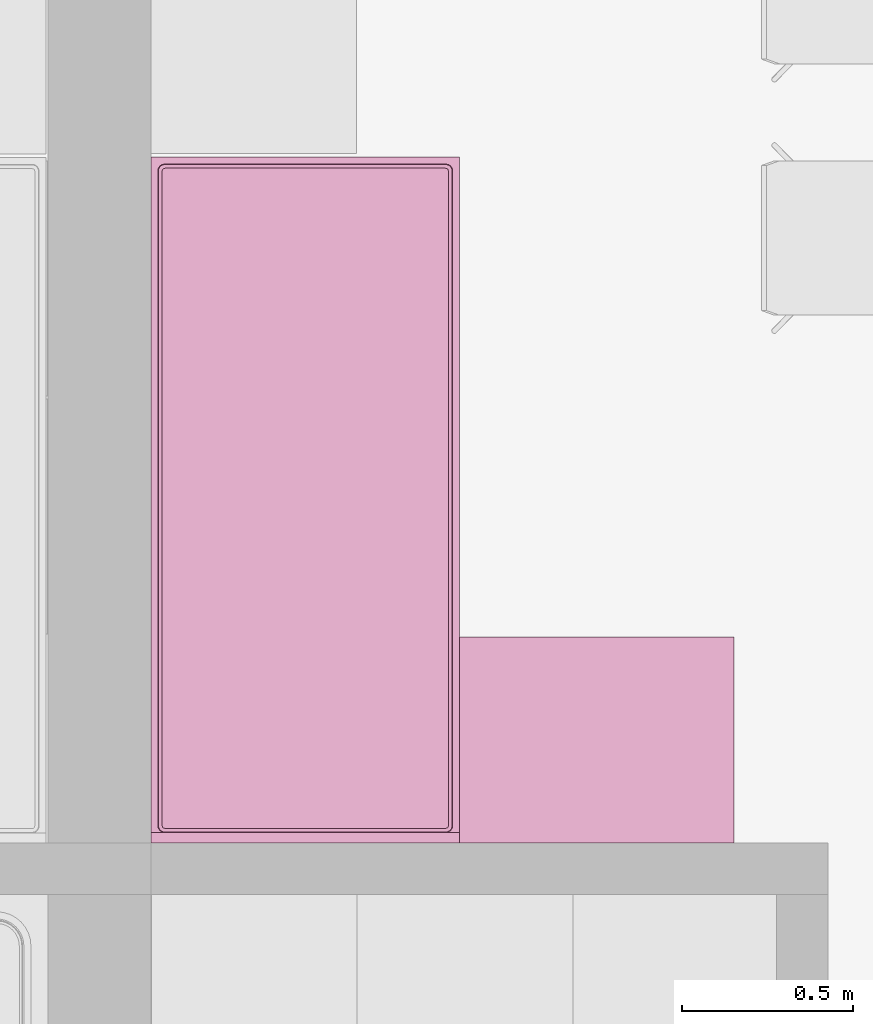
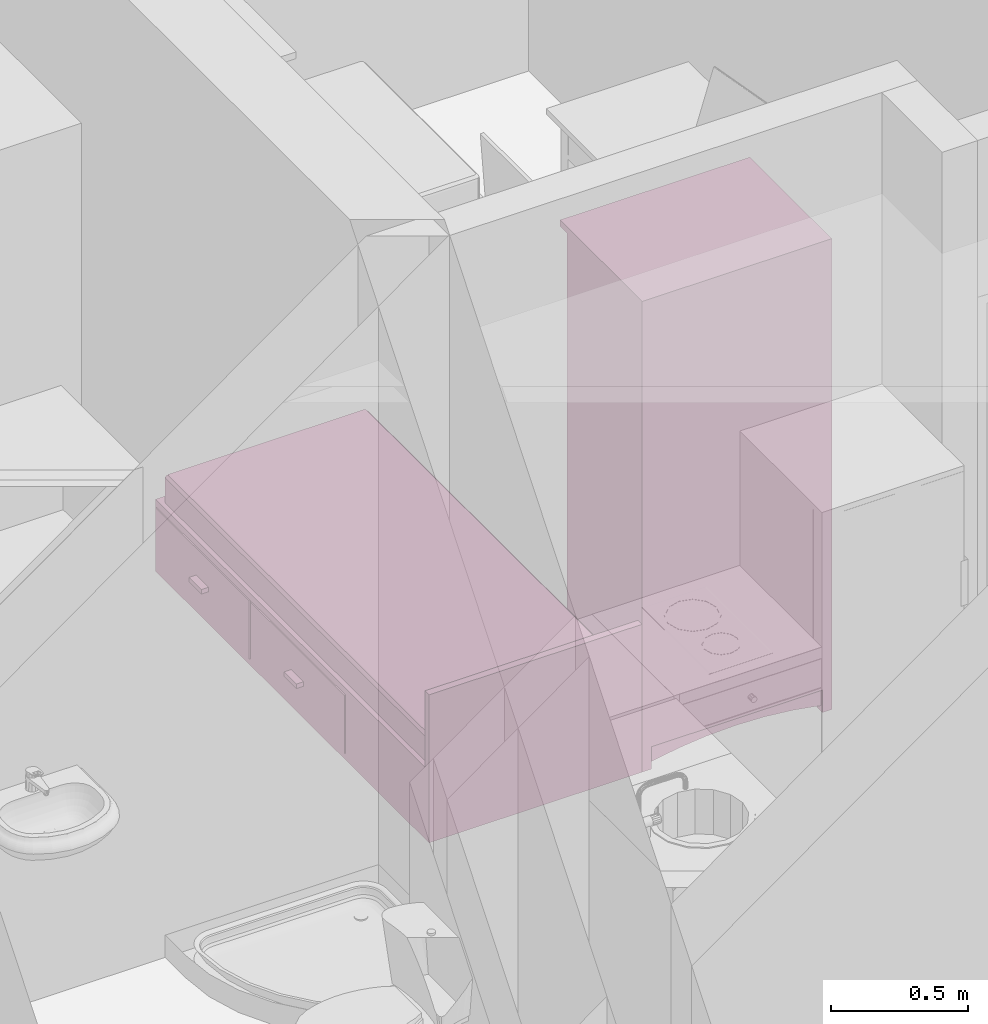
# One storey, part 90 of 165: 2 furnishings.
"""IFC2X3 building model written with IfcOpenShell, lengths in millimetres."""

from ifc_helpers import new_model, entity, si_unit, converted_unit, money_unit, direction, frame, origin_with_axes, place, context, subcontext, project, spatial, faceted_brep, source, transform, mapped, material, material_list, type_object, element, save


model = new_model("IFC2X3")

# Units and contexts
model_context = context("Model", 3, precision=1e-05, world=origin_with_axes(), true_north=direction((0.0, 1.0)))
body_context = subcontext(model_context, "Body", "Model", "MODEL_VIEW")
ifc_project = project(units=[si_unit("LENGTHUNIT", "METRE", prefix="MILLI"), si_unit("AREAUNIT", "SQUARE_METRE"), si_unit("VOLUMEUNIT", "CUBIC_METRE"), converted_unit("PLANEANGLEUNIT", "DEGREE", entity("IfcPlaneAngleMeasure", 0.0174532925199), si_unit("PLANEANGLEUNIT", "RADIAN"), dimensions=[0, 0, 0, 0, 0, 0, 0]), si_unit("SOLIDANGLEUNIT", "STERADIAN"), money_unit("USD"), converted_unit("TIMEUNIT", "Year", entity("IfcTimeMeasure", 31556926.0), si_unit("TIMEUNIT", "SECOND"), dimensions=[0, 0, 0, 0, 0, 0, 0]), si_unit("MASSUNIT", "GRAM"), si_unit("THERMODYNAMICTEMPERATUREUNIT", "DEGREE_CELSIUS"), si_unit("LUMINOUSINTENSITYUNIT", "LUMEN")], contexts=[model_context])

# Site, building, storey
site_placement = place(None, origin_with_axes())
site = spatial("IfcSite", under=ifc_project, at=site_placement, Name="Site", CompositionType="ELEMENT")
building_placement = place(site_placement, origin_with_axes())
building = spatial("IfcBuilding", under=site, at=building_placement, Name="Building", CompositionType="ELEMENT")
storey_placement = place(building_placement, frame((0.0, 0.0, 6300.0), z_axis=(0.0, 0.0, 1.0), x_axis=(1.0, 0.0, 0.0)))
storey = spatial("IfcBuildingStorey", under=building, at=storey_placement, Name="4KORRUS", CompositionType="ELEMENT", Elevation=6300.0)

# Furnishings
ifc_material = material(Name="Background")
ifc_material_list = material_list([ifc_material])
furnishing_element_type_1 = type_object("IfcFurnishingElementType", Name="Bed 19")
shared_shape_1 = source(origin_with_axes(), body_context, "Body", "Brep", [
    faceted_brep([(900.0, 1970.0, 0.0), (0.0, 1970.0, 0.0), (0.0, 2000.0, 0.0), (900.0, 2000.0, 0.0), (900.0, 1970.0, 660.0), (0.0, 1970.0, 660.0), (0.0, 2000.0, 660.0), (900.0, 2000.0, 660.0)], [[[0, 1, 2, 3]], [[1, 0, 4, 5]], [[2, 1, 5, 6]], [[3, 2, 6, 7]], [[0, 3, 7, 4]], [[5, 4, 7, 6]]]),
    faceted_brep([(900.0, 0.0, 0.0), (0.0, 0.0, 0.0), (0.0, 1970.0, 0.0), (900.0, 1970.0, 0.0), (900.0, 0.0, 320.0), (0.0, 0.0, 320.0), (0.0, 1970.0, 320.0), (900.0, 1970.0, 320.0)], [[[0, 1, 2, 3]], [[1, 0, 4, 5]], [[2, 1, 5, 6]], [[3, 2, 6, 7]], [[0, 3, 7, 4]], [[5, 4, 7, 6]]]),
    faceted_brep([(905.0, 10.0, 30.0), (900.0, 10.0, 30.0), (900.0, 695.0, 30.0), (905.0, 695.0, 30.0), (905.0, 10.0, 290.0), (900.0, 10.0, 290.0), (900.0, 695.0, 290.0), (905.0, 695.0, 290.0)], [[[0, 1, 2, 3]], [[1, 0, 4, 5]], [[2, 1, 5, 6]], [[3, 2, 6, 7]], [[0, 3, 7, 4]], [[5, 4, 7, 6]]]),
    faceted_brep([(935.0, 307.5, 150.0), (905.0, 307.5, 150.0), (905.0, 397.5, 150.0), (935.0, 397.5, 150.0), (935.0, 307.5, 170.0), (905.0, 307.5, 170.0), (905.0, 397.5, 170.0), (935.0, 397.5, 170.0)], [[[0, 1, 2, 3]], [[1, 0, 4, 5]], [[2, 1, 5, 6]], [[3, 2, 6, 7]], [[0, 3, 7, 4]], [[5, 4, 7, 6]]]),
    faceted_brep([(905.0, 705.0, 30.0), (900.0, 705.0, 30.0), (900.0, 1390.0, 30.0), (905.0, 1390.0, 30.0), (905.0, 705.0, 290.0), (900.0, 705.0, 290.0), (900.0, 1390.0, 290.0), (905.0, 1390.0, 290.0)], [[[0, 1, 2, 3]], [[1, 0, 4, 5]], [[2, 1, 5, 6]], [[3, 2, 6, 7]], [[0, 3, 7, 4]], [[5, 4, 7, 6]]]),
    faceted_brep([(935.0, 1002.5, 150.0), (905.0, 1002.5, 150.0), (905.0, 1092.5, 150.0), (935.0, 1092.5, 150.0), (935.0, 1002.5, 170.0), (905.0, 1002.5, 170.0), (905.0, 1092.5, 170.0), (935.0, 1092.5, 170.0)], [[[0, 1, 2, 3]], [[1, 0, 4, 5]], [[2, 1, 5, 6]], [[3, 2, 6, 7]], [[0, 3, 7, 4]], [[5, 4, 7, 6]]]),
    faceted_brep([(20.0, 40.0, 350.0), (20.0, 1950.0, 350.0), (21.522, 1957.654, 350.0), (25.858, 1964.142, 350.0), (32.346, 1968.478, 350.0), (40.0, 1970.0, 350.0), (860.0, 1970.0, 350.0), (867.654, 1968.478, 350.0), (874.142, 1964.142, 350.0), (878.478, 1957.654, 350.0), (880.0, 1950.0, 350.0), (880.0, 40.0, 350.0), (878.478, 32.346, 350.0), (874.142, 25.858, 350.0), (867.654, 21.522, 350.0), (860.0, 20.0, 350.0), (40.0, 20.0, 350.0), (32.346, 21.522, 350.0), (25.858, 25.858, 350.0), (21.522, 32.346, 350.0), (20.0, 40.0, 420.0), (20.0, 1950.0, 420.0), (21.522, 1957.654, 420.0), (25.858, 1964.142, 420.0), (32.346, 1968.478, 420.0), (40.0, 1970.0, 420.0), (860.0, 1970.0, 420.0), (867.654, 1968.478, 420.0), (874.142, 1964.142, 420.0), (878.478, 1957.654, 420.0), (880.0, 1950.0, 420.0), (880.0, 40.0, 420.0), (878.478, 32.346, 420.0), (874.142, 25.858, 420.0), (867.654, 21.522, 420.0), (860.0, 20.0, 420.0), (40.0, 20.0, 420.0), (32.346, 21.522, 420.0), (25.858, 25.858, 420.0), (21.522, 32.346, 420.0), (21.522, 40.15, 427.654), (21.522, 1949.85, 427.654), (22.956, 1957.06, 427.654), (26.955, 1963.045, 427.654), (32.94, 1967.044, 427.654), (40.15, 1968.478, 427.654), (859.85, 1968.478, 427.654), (867.06, 1967.044, 427.654), (873.045, 1963.045, 427.654), (877.044, 1957.06, 427.654), (878.478, 1949.85, 427.654), (878.478, 40.15, 427.654), (877.044, 32.94, 427.654), (873.045, 26.955, 427.654), (867.06, 22.956, 427.654), (859.85, 21.522, 427.654), (40.15, 21.522, 427.654), (32.94, 22.956, 427.654), (26.955, 26.955, 427.654), (22.956, 32.94, 427.654), (32.346, 41.216, 438.478), (32.346, 1948.784, 438.478), (33.152, 1952.836, 438.478), (34.759, 1955.241, 438.478), (37.164, 1956.848, 438.478), (41.216, 1957.654, 438.478), (858.784, 1957.654, 438.478), (862.836, 1956.848, 438.478), (865.241, 1955.241, 438.478), (866.848, 1952.836, 438.478), (867.654, 1948.784, 438.478), (867.654, 41.216, 438.478), (866.848, 37.164, 438.478), (865.241, 34.759, 438.478), (862.836, 33.152, 438.478), (858.784, 32.346, 438.478), (41.216, 32.346, 438.478), (37.164, 33.152, 438.478), (34.759, 34.759, 438.478), (33.152, 37.164, 438.478), (40.0, 41.97, 440.0), (40.0, 1948.03, 440.0), (40.327, 1949.673, 440.0), (40.0, 1950.0, 439.924), (41.97, 1950.0, 440.0), (858.03, 1950.0, 440.0), (859.673, 1949.673, 440.0), (860.0, 1950.0, 439.924), (860.0, 1948.03, 440.0), (860.0, 41.97, 440.0), (859.673, 40.327, 440.0), (860.0, 40.0, 439.924), (858.03, 40.0, 440.0), (41.97, 40.0, 440.0), (40.327, 40.327, 440.0), (40.0, 40.0, 439.924)], [[[0, 1, 2, 3, 4, 5, 6, 7, 8, 9, 10, 11, 12, 13, 14, 15, 16, 17, 18, 19]], [[1, 0, 20, 21]], [[2, 1, 21, 22]], [[3, 2, 22, 23]], [[4, 3, 23, 24]], [[5, 4, 24, 25]], [[6, 5, 25, 26]], [[7, 6, 26, 27]], [[8, 7, 27, 28]], [[9, 8, 28, 29]], [[10, 9, 29, 30]], [[11, 10, 30, 31]], [[12, 11, 31, 32]], [[13, 12, 32, 33]], [[14, 13, 33, 34]], [[15, 14, 34, 35]], [[16, 15, 35, 36]], [[17, 16, 36, 37]], [[18, 17, 37, 38]], [[19, 18, 38, 39]], [[0, 19, 39, 20]], [[21, 20, 40, 41]], [[22, 21, 41, 42]], [[23, 22, 42, 43]], [[24, 23, 43, 44]], [[25, 24, 44, 45]], [[26, 25, 45, 46]], [[27, 26, 46, 47]], [[28, 27, 47, 48]], [[29, 28, 48, 49]], [[30, 29, 49, 50]], [[31, 30, 50, 51]], [[32, 31, 51, 52]], [[33, 32, 52, 53]], [[34, 33, 53, 54]], [[35, 34, 54, 55]], [[36, 35, 55, 56]], [[37, 36, 56, 57]], [[38, 37, 57, 58]], [[39, 38, 58, 59]], [[20, 39, 59, 40]], [[41, 40, 60, 61]], [[42, 41, 61, 62]], [[43, 42, 62, 63]], [[44, 43, 63, 64]], [[45, 44, 64, 65]], [[46, 45, 65, 66]], [[47, 46, 66, 67]], [[48, 47, 67, 68]], [[49, 48, 68, 69]], [[50, 49, 69, 70]], [[51, 50, 70, 71]], [[52, 51, 71, 72]], [[53, 52, 72, 73]], [[54, 53, 73, 74]], [[55, 54, 74, 75]], [[56, 55, 75, 76]], [[57, 56, 76, 77]], [[58, 57, 77, 78]], [[59, 58, 78, 79]], [[40, 59, 79, 60]], [[61, 60, 80, 81]], [[62, 61, 81, 82, 83]], [[63, 62, 83]], [[64, 63, 83]], [[65, 64, 83, 82, 84]], [[66, 65, 84, 85]], [[67, 66, 85, 86, 87]], [[68, 67, 87]], [[69, 68, 87]], [[70, 69, 87, 86, 88]], [[71, 70, 88, 89]], [[72, 71, 89, 90, 91]], [[73, 72, 91]], [[74, 73, 91]], [[75, 74, 91, 90, 92]], [[76, 75, 92, 93]], [[77, 76, 93, 94, 95]], [[78, 77, 95]], [[79, 78, 95]], [[60, 79, 95, 94, 80]], [[81, 80, 94, 93, 92, 90, 89, 88, 86, 85, 84, 82]]]),
    faceted_brep([(20.0, 40.0, 350.0), (21.522, 32.346, 350.0), (25.858, 25.858, 350.0), (32.346, 21.522, 350.0), (40.0, 20.0, 350.0), (860.0, 20.0, 350.0), (867.654, 21.522, 350.0), (874.142, 25.858, 350.0), (878.478, 32.346, 350.0), (880.0, 40.0, 350.0), (880.0, 1950.0, 350.0), (878.478, 1957.654, 350.0), (874.142, 1964.142, 350.0), (867.654, 1968.478, 350.0), (860.0, 1970.0, 350.0), (40.0, 1970.0, 350.0), (32.346, 1968.478, 350.0), (25.858, 1964.142, 350.0), (21.522, 1957.654, 350.0), (20.0, 1950.0, 350.0), (20.0, 40.0, 320.0), (21.522, 32.346, 320.0), (25.858, 25.858, 320.0), (32.346, 21.522, 320.0), (40.0, 20.0, 320.0), (860.0, 20.0, 320.0), (867.654, 21.522, 320.0), (874.142, 25.858, 320.0), (878.478, 32.346, 320.0), (880.0, 40.0, 320.0), (880.0, 1950.0, 320.0), (878.478, 1957.654, 320.0), (874.142, 1964.142, 320.0), (867.654, 1968.478, 320.0), (860.0, 1970.0, 320.0), (40.0, 1970.0, 320.0), (32.346, 1968.478, 320.0), (25.858, 1964.142, 320.0), (21.522, 1957.654, 320.0), (20.0, 1950.0, 320.0)], [[[0, 1, 2, 3, 4, 5, 6, 7, 8, 9, 10, 11, 12, 13, 14, 15, 16, 17, 18, 19]], [[0, 20, 21, 1]], [[1, 21, 22, 2]], [[2, 22, 23, 3]], [[3, 23, 24, 4]], [[4, 24, 25, 5]], [[5, 25, 26, 6]], [[6, 26, 27, 7]], [[7, 27, 28, 8]], [[8, 28, 29, 9]], [[9, 29, 30, 10]], [[10, 30, 31, 11]], [[11, 31, 32, 12]], [[12, 32, 33, 13]], [[13, 33, 34, 14]], [[14, 34, 35, 15]], [[15, 35, 36, 16]], [[16, 36, 37, 17]], [[17, 37, 38, 18]], [[18, 38, 39, 19]], [[19, 39, 20, 0]], [[20, 39, 38, 37, 36, 35, 34, 33, 32, 31, 30, 29, 28, 27, 26, 25, 24, 23, 22, 21]]]),
])
furnishing_1_placement = place(storey_placement, frame((-35090.2967033, -7216.37850445, 0.0), z_axis=(0.0, 0.0, 1.0), x_axis=(-1.0, 0.0, 0.0)))
element("IfcFurnishingElement", 1, at=furnishing_1_placement, inside=storey, type_object=furnishing_element_type_1, material=ifc_material_list, Name="FU - 013", context=body_context, shape_type="MappedRepresentation", body=[
    mapped(shared_shape_1, transform((0.0, 0.0, 0.0))),
])
furnishing_element_type_2 = type_object("IfcFurnishingElementType", Name="Cupboard 19")
shared_shape_2 = source(origin_with_axes(), body_context, "Body", "Brep", [
    faceted_brep([(780.0, 600.0, 120.0), (780.0, 600.0, 2050.0), (780.0, 580.0, 2050.0), (780.0, 580.0, 120.0), (20.0, 600.0, 120.0), (20.0, 600.0, 2050.0), (20.0, 580.0, 2050.0), (20.0, 580.0, 120.0)], [[[0, 1, 2, 3]], [[4, 5, 1, 0]], [[1, 5, 6, 2]], [[3, 2, 6, 7]], [[0, 3, 7, 4]], [[7, 6, 5, 4]]]),
    faceted_brep([(0.0, 50.0, 100.0), (0.0, 600.0, 100.0), (20.0, 600.0, 100.0), (20.0, 50.0, 100.0), (0.0, 50.0, 2070.0), (0.0, 600.0, 2070.0), (20.0, 600.0, 2070.0), (20.0, 50.0, 2070.0)], [[[0, 1, 2, 3]], [[0, 4, 5, 1]], [[1, 5, 6, 2]], [[2, 6, 7, 3]], [[3, 7, 4, 0]], [[7, 6, 5, 4]]]),
    faceted_brep([(780.0, 50.0, 100.0), (780.0, 600.0, 100.0), (800.0, 600.0, 100.0), (800.0, 50.0, 100.0), (780.0, 50.0, 2070.0), (780.0, 600.0, 2070.0), (800.0, 600.0, 2070.0), (800.0, 50.0, 2070.0)], [[[0, 1, 2, 3]], [[0, 4, 5, 1]], [[1, 5, 6, 2]], [[2, 6, 7, 3]], [[3, 7, 4, 0]], [[7, 6, 5, 4]]]),
    faceted_brep([(20.0, 50.0, 100.0), (20.0, 600.0, 100.0), (780.0, 600.0, 100.0), (780.0, 50.0, 100.0), (20.0, 50.0, 120.0), (20.0, 600.0, 120.0), (780.0, 600.0, 120.0), (780.0, 50.0, 120.0)], [[[0, 1, 2, 3]], [[0, 4, 5, 1]], [[1, 5, 6, 2]], [[2, 6, 7, 3]], [[3, 7, 4, 0]], [[7, 6, 5, 4]]]),
    faceted_brep([(20.0, 50.0, 2050.0), (20.0, 600.0, 2050.0), (780.0, 600.0, 2050.0), (780.0, 50.0, 2050.0), (20.0, 50.0, 2070.0), (20.0, 600.0, 2070.0), (780.0, 600.0, 2070.0), (780.0, 50.0, 2070.0)], [[[0, 1, 2, 3]], [[0, 4, 5, 1]], [[1, 5, 6, 2]], [[2, 6, 7, 3]], [[3, 7, 4, 0]], [[7, 6, 5, 4]]]),
    faceted_brep([(0.0, 600.0, 2070.0), (0.0, 0.0, 2070.0), (0.0, 0.0, 2100.0), (0.0, 600.0, 2100.0), (800.0, 600.0, 2070.0), (800.0, 0.0, 2070.0), (800.0, 0.0, 2100.0), (800.0, 600.0, 2100.0)], [[[0, 1, 2, 3]], [[0, 4, 5, 1]], [[1, 5, 6, 2]], [[3, 2, 6, 7]], [[4, 0, 3, 7]], [[5, 4, 7, 6]]]),
    faceted_brep([(760.0, 590.0, 25.0), (760.0, 570.0, 25.0), (640.962, 570.0, 45.8), (640.962, 590.0, 45.8), (760.0, 590.0, 100.0), (760.0, 570.0, 100.0), (40.0, 570.0, 100.0), (40.0, 570.0, 25.0), (159.038, 570.0, 45.8), (279.23, 570.0, 58.32), (400.0, 570.0, 62.5), (520.77, 570.0, 58.32), (520.77, 590.0, 58.32), (400.0, 590.0, 62.5), (279.23, 590.0, 58.32), (159.038, 590.0, 45.8), (40.0, 590.0, 25.0), (40.0, 590.0, 100.0)], [[[0, 1, 2, 3]], [[4, 5, 1, 0]], [[1, 5, 6, 7, 8, 9, 10, 11, 2]], [[3, 2, 11, 12]], [[0, 3, 12, 13, 14, 15, 16, 17, 4]], [[17, 6, 5, 4]], [[16, 7, 6, 17]], [[15, 8, 7, 16]], [[14, 9, 8, 15]], [[13, 10, 9, 14]], [[12, 11, 10, 13]]]),
    faceted_brep([(760.0, 80.0, 25.0), (760.0, 60.0, 25.0), (640.962, 60.0, 45.8), (640.962, 80.0, 45.8), (760.0, 80.0, 100.0), (760.0, 60.0, 100.0), (40.0, 60.0, 100.0), (40.0, 60.0, 25.0), (159.038, 60.0, 45.8), (279.23, 60.0, 58.32), (400.0, 60.0, 62.5), (520.77, 60.0, 58.32), (520.77, 80.0, 58.32), (400.0, 80.0, 62.5), (279.23, 80.0, 58.32), (159.038, 80.0, 45.8), (40.0, 80.0, 25.0), (40.0, 80.0, 100.0)], [[[0, 1, 2, 3]], [[4, 5, 1, 0]], [[1, 5, 6, 7, 8, 9, 10, 11, 2]], [[3, 2, 11, 12]], [[0, 3, 12, 13, 14, 15, 16, 17, 4]], [[17, 6, 5, 4]], [[16, 7, 6, 17]], [[15, 8, 7, 16]], [[14, 9, 8, 15]], [[13, 10, 9, 14]], [[12, 11, 10, 13]]]),
    faceted_brep([(790.0, 90.0, 25.0), (770.0, 90.0, 25.0), (770.0, 141.266, 38.072), (790.0, 141.266, 38.072), (790.0, 90.0, 100.0), (770.0, 90.0, 100.0), (770.0, 560.0, 100.0), (770.0, 560.0, 25.0), (770.0, 508.734, 38.072), (770.0, 456.752, 47.92), (770.0, 404.257, 54.508), (770.0, 351.453, 57.808), (770.0, 298.547, 57.808), (770.0, 245.743, 54.508), (770.0, 193.248, 47.92), (790.0, 193.248, 47.92), (790.0, 245.743, 54.508), (790.0, 298.547, 57.808), (790.0, 351.453, 57.808), (790.0, 404.257, 54.508), (790.0, 456.752, 47.92), (790.0, 508.734, 38.072), (790.0, 560.0, 25.0), (790.0, 560.0, 100.0)], [[[0, 1, 2, 3]], [[4, 5, 1, 0]], [[1, 5, 6, 7, 8, 9, 10, 11, 12, 13, 14, 2]], [[3, 2, 14, 15]], [[0, 3, 15, 16, 17, 18, 19, 20, 21, 22, 23, 4]], [[23, 6, 5, 4]], [[22, 7, 6, 23]], [[21, 8, 7, 22]], [[20, 9, 8, 21]], [[19, 10, 9, 20]], [[18, 11, 10, 19]], [[17, 12, 11, 18]], [[16, 13, 12, 17]], [[15, 14, 13, 16]]]),
    faceted_brep([(30.0, 90.0, 25.0), (10.0, 90.0, 25.0), (10.0, 141.266, 38.072), (30.0, 141.266, 38.072), (30.0, 90.0, 100.0), (10.0, 90.0, 100.0), (10.0, 560.0, 100.0), (10.0, 560.0, 25.0), (10.0, 508.734, 38.072), (10.0, 456.752, 47.92), (10.0, 404.257, 54.508), (10.0, 351.453, 57.808), (10.0, 298.547, 57.808), (10.0, 245.743, 54.508), (10.0, 193.248, 47.92), (30.0, 193.248, 47.92), (30.0, 245.743, 54.508), (30.0, 298.547, 57.808), (30.0, 351.453, 57.808), (30.0, 404.257, 54.508), (30.0, 456.752, 47.92), (30.0, 508.734, 38.072), (30.0, 560.0, 25.0), (30.0, 560.0, 100.0)], [[[0, 1, 2, 3]], [[4, 5, 1, 0]], [[1, 5, 6, 7, 8, 9, 10, 11, 12, 13, 14, 2]], [[3, 2, 14, 15]], [[0, 3, 15, 16, 17, 18, 19, 20, 21, 22, 23, 4]], [[23, 6, 5, 4]], [[22, 7, 6, 23]], [[21, 8, 7, 22]], [[20, 9, 8, 21]], [[19, 10, 9, 20]], [[18, 11, 10, 19]], [[17, 12, 11, 18]], [[16, 13, 12, 17]], [[15, 14, 13, 16]]]),
    faceted_brep([(760.0, 560.0, 0.0), (760.0, 560.0, 100.0), (760.0, 600.0, 100.0), (760.0, 600.0, 0.0), (800.0, 560.0, 0.0), (800.0, 560.0, 100.0), (800.0, 600.0, 100.0), (800.0, 600.0, 0.0)], [[[0, 1, 2, 3]], [[4, 5, 1, 0]], [[1, 5, 6, 2]], [[3, 2, 6, 7]], [[0, 3, 7, 4]], [[7, 6, 5, 4]]]),
    faceted_brep([(0.0, 560.0, 0.0), (0.0, 560.0, 100.0), (0.0, 600.0, 100.0), (0.0, 600.0, 0.0), (40.0, 560.0, 0.0), (40.0, 560.0, 100.0), (40.0, 600.0, 100.0), (40.0, 600.0, 0.0)], [[[0, 1, 2, 3]], [[4, 5, 1, 0]], [[1, 5, 6, 2]], [[3, 2, 6, 7]], [[0, 3, 7, 4]], [[7, 6, 5, 4]]]),
    faceted_brep([(760.0, 50.0, 0.0), (760.0, 50.0, 100.0), (760.0, 90.0, 100.0), (760.0, 90.0, 0.0), (800.0, 50.0, 0.0), (800.0, 50.0, 100.0), (800.0, 90.0, 100.0), (800.0, 90.0, 0.0)], [[[0, 1, 2, 3]], [[4, 5, 1, 0]], [[1, 5, 6, 2]], [[3, 2, 6, 7]], [[0, 3, 7, 4]], [[7, 6, 5, 4]]]),
    faceted_brep([(0.0, 50.0, 0.0), (0.0, 50.0, 100.0), (0.0, 90.0, 100.0), (0.0, 90.0, 0.0), (40.0, 50.0, 0.0), (40.0, 50.0, 100.0), (40.0, 90.0, 100.0), (40.0, 90.0, 0.0)], [[[0, 1, 2, 3]], [[4, 5, 1, 0]], [[1, 5, 6, 2]], [[3, 2, 6, 7]], [[0, 3, 7, 4]], [[7, 6, 5, 4]]]),
    faceted_brep([(780.0, 580.0, 587.5), (780.0, 580.0, 607.5), (780.0, 50.0, 607.5), (780.0, 50.0, 587.5), (20.0, 580.0, 587.5), (20.0, 580.0, 607.5), (20.0, 50.0, 607.5), (20.0, 50.0, 587.5)], [[[0, 1, 2, 3]], [[4, 5, 1, 0]], [[1, 5, 6, 2]], [[3, 2, 6, 7]], [[0, 3, 7, 4]], [[7, 6, 5, 4]]]),
    faceted_brep([(780.0, 580.0, 1075.0), (780.0, 580.0, 1095.0), (780.0, 50.0, 1095.0), (780.0, 50.0, 1075.0), (20.0, 580.0, 1075.0), (20.0, 580.0, 1095.0), (20.0, 50.0, 1095.0), (20.0, 50.0, 1075.0)], [[[0, 1, 2, 3]], [[4, 5, 1, 0]], [[1, 5, 6, 2]], [[3, 2, 6, 7]], [[0, 3, 7, 4]], [[7, 6, 5, 4]]]),
    faceted_brep([(780.0, 580.0, 1562.5), (780.0, 580.0, 1582.5), (780.0, 50.0, 1582.5), (780.0, 50.0, 1562.5), (20.0, 580.0, 1562.5), (20.0, 580.0, 1582.5), (20.0, 50.0, 1582.5), (20.0, 50.0, 1562.5)], [[[0, 1, 2, 3]], [[4, 5, 1, 0]], [[1, 5, 6, 2]], [[3, 2, 6, 7]], [[0, 3, 7, 4]], [[7, 6, 5, 4]]]),
    faceted_brep([(789.5, 50.0, 110.5), (400.5, 50.0, 110.5), (400.5, 50.0, 2059.5), (789.5, 50.0, 2059.5), (789.5, 40.0, 110.5), (400.5, 40.0, 110.5), (400.5, 40.0, 2059.5), (789.5, 40.0, 2059.5), (779.5, 30.0, 120.5), (410.5, 30.0, 120.5), (410.5, 30.0, 2049.5), (779.5, 30.0, 2049.5)], [[[0, 1, 2, 3]], [[0, 4, 5, 1]], [[1, 5, 6, 2]], [[2, 6, 7, 3]], [[3, 7, 4, 0]], [[4, 8, 9, 5]], [[5, 9, 10, 6]], [[6, 10, 11, 7]], [[7, 11, 8, 4]], [[10, 9, 8, 11]]]),
    faceted_brep([(399.5, 50.0, 110.5), (10.5, 50.0, 110.5), (10.5, 50.0, 2059.5), (399.5, 50.0, 2059.5), (399.5, 40.0, 110.5), (10.5, 40.0, 110.5), (10.5, 40.0, 2059.5), (399.5, 40.0, 2059.5), (389.5, 30.0, 120.5), (20.5, 30.0, 120.5), (20.5, 30.0, 2049.5), (389.5, 30.0, 2049.5)], [[[0, 1, 2, 3]], [[0, 4, 5, 1]], [[1, 5, 6, 2]], [[2, 6, 7, 3]], [[3, 7, 4, 0]], [[4, 8, 9, 5]], [[5, 9, 10, 6]], [[6, 10, 11, 7]], [[7, 11, 8, 4]], [[10, 9, 8, 11]]]),
    faceted_brep([(339.608, 30.0, 954.0), (338.0, 30.0, 960.0), (339.608, 30.0, 966.0), (344.0, 30.0, 970.392), (350.0, 30.0, 972.0), (356.0, 30.0, 970.392), (360.392, 30.0, 966.0), (362.0, 30.0, 960.0), (360.392, 30.0, 954.0), (356.0, 30.0, 949.608), (350.0, 30.0, 948.0), (344.0, 30.0, 949.608), (339.608, 5.0, 954.0), (338.0, 5.0, 960.0), (339.608, 5.0, 966.0), (344.0, 5.0, 970.392), (350.0, 5.0, 972.0), (356.0, 5.0, 970.392), (360.392, 5.0, 966.0), (362.0, 5.0, 960.0), (360.392, 5.0, 954.0), (356.0, 5.0, 949.608), (350.0, 5.0, 948.0), (344.0, 5.0, 949.608)], [[[0, 1, 2, 3, 4, 5, 6, 7, 8, 9, 10, 11]], [[0, 12, 13, 1]], [[1, 13, 14, 2]], [[2, 14, 15, 3]], [[3, 15, 16, 4]], [[4, 16, 17, 5]], [[5, 17, 18, 6]], [[6, 18, 19, 7]], [[7, 19, 20, 8]], [[8, 20, 21, 9]], [[9, 21, 22, 10]], [[10, 22, 23, 11]], [[11, 23, 12, 0]], [[12, 23, 22, 21, 20, 19, 18, 17, 16, 15, 14, 13]]]),
    faceted_brep([(460.392, 30.0, 954.0), (456.0, 30.0, 949.608), (450.0, 30.0, 948.0), (444.0, 30.0, 949.608), (439.608, 30.0, 954.0), (438.0, 30.0, 960.0), (439.608, 30.0, 966.0), (444.0, 30.0, 970.392), (450.0, 30.0, 972.0), (456.0, 30.0, 970.392), (460.392, 30.0, 966.0), (462.0, 30.0, 960.0), (460.392, 5.0, 954.0), (456.0, 5.0, 949.608), (450.0, 5.0, 948.0), (444.0, 5.0, 949.608), (439.608, 5.0, 954.0), (438.0, 5.0, 960.0), (439.608, 5.0, 966.0), (444.0, 5.0, 970.392), (450.0, 5.0, 972.0), (456.0, 5.0, 970.392), (460.392, 5.0, 966.0), (462.0, 5.0, 960.0)], [[[0, 1, 2, 3, 4, 5, 6, 7, 8, 9, 10, 11]], [[1, 0, 12, 13]], [[2, 1, 13, 14]], [[3, 2, 14, 15]], [[4, 3, 15, 16]], [[5, 4, 16, 17]], [[6, 5, 17, 18]], [[7, 6, 18, 19]], [[8, 7, 19, 20]], [[9, 8, 20, 21]], [[10, 9, 21, 22]], [[11, 10, 22, 23]], [[0, 11, 23, 12]], [[12, 23, 22, 21, 20, 19, 18, 17, 16, 15, 14, 13]]]),
])
furnishing_2_placement = place(storey_placement, frame((-34290.2967033, -8616.37850445, 0.0), z_axis=(0.0, 0.0, 1.0), x_axis=(-1.0, 0.0, 0.0)))
element("IfcFurnishingElement", 2, at=furnishing_2_placement, inside=storey, type_object=furnishing_element_type_2, material=ifc_material_list, Name="FU - 014", context=body_context, shape_type="MappedRepresentation", body=[
    mapped(shared_shape_2, transform((0.0, 0.0, 0.0))),
])

save(model, "model.ifc")
